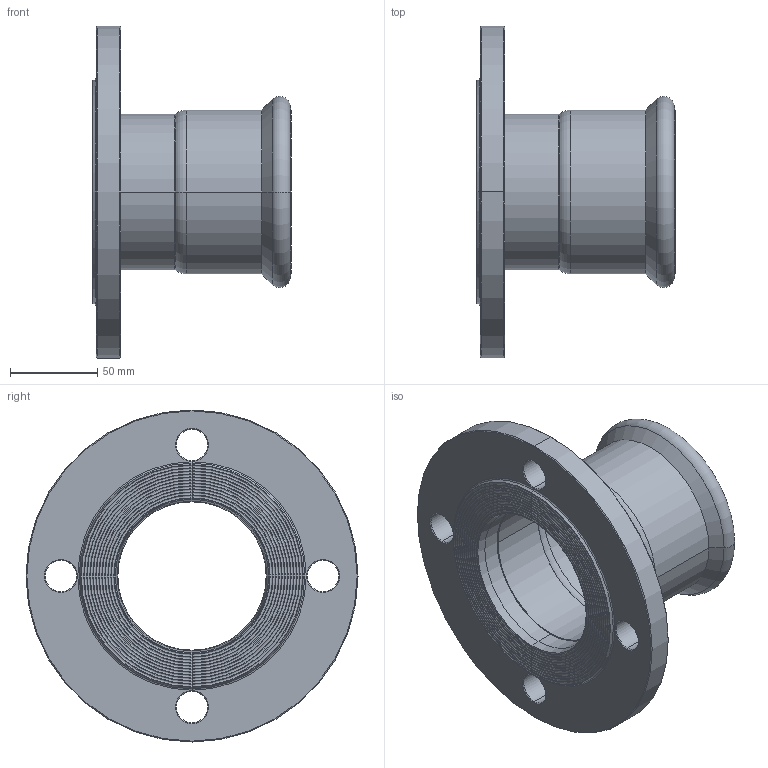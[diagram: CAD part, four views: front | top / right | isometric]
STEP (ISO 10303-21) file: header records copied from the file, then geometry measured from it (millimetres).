
FILE_DESCRIPTION(('Creo Elements/Direct Modeling STEP Export'),'2;1');
FILE_NAME('6206631.stp','2022-03-16T16:02:30',(''),(''),'PTC Creo Elements/Direct Modeling STEP processor for AP214 (Solid Model)','PTC Creo Elements/Direct Modeling 19.0C 15-Aug-2015 (C) Parametric Technology GmbH','');
FILE_SCHEMA(('AUTOMOTIVE_DESIGN { 1 0 10303 214 1 1 1 1 }'));
Length unit declared in the file: millimetre
Products named in the file (2): C1427_88.9
Assembly tree (1 placements, depth 2):
  C1427_88.9
    C1427_88.9
Bounding box: 113.57 x 190 x 190 mm (x, y, z)
Volume: 396000.2 mm3; surface area: 118113.3 mm2
Topology: 1 solids, 1 shells, 114 faces, 236 edges, 138 vertices
Faces by surface type: cone 42, torus 34, cylinder 22, plane 16
Entity records: 2713 total; most frequent: DIRECTION 480, ORIENTED_EDGE 472, CARTESIAN_POINT 410, EDGE_CURVE 236, AXIS2_PLACEMENT_3D 208, VERTEX_POINT 138, EDGE_LOOP 138, FACE_OUTER_BOUND 114
